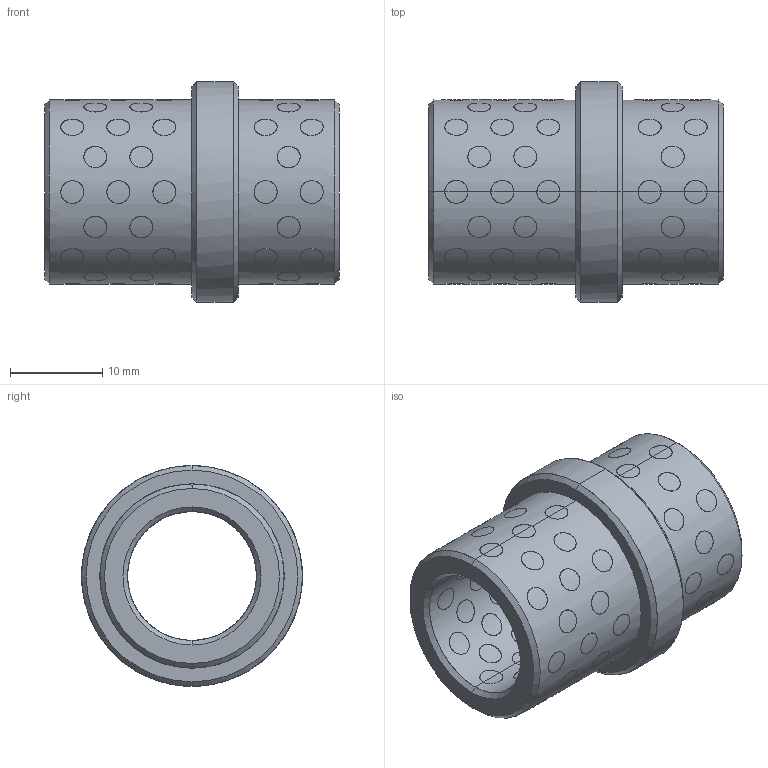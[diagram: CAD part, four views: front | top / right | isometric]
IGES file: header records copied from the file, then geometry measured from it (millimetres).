
Start section: START RECORD GO HERE.
Global section: file name: G4031432.igs; native system: DASSAULT SYSTEMES CATIA V5 R20 - www.3ds.com; preprocessor: CATIA Version 5 Release 20 ; author: r.borello; organization: CFTORINO; date: 20190624.144821; units: millimetre
Bounding box: 32 x 24 x 24 mm (x, y, z)
Surface area: 6986.6 mm2 (no closed solid volume)
Topology: 0 solids, 0 shells, 428 faces, 1872 edges, 1872 vertices
Faces by surface type: revolution 424, plane 4
